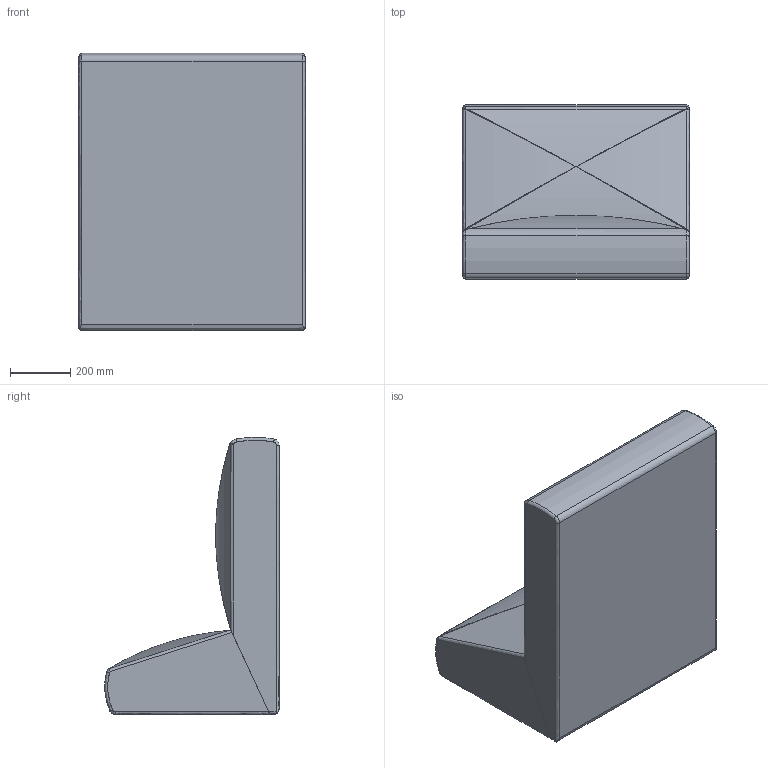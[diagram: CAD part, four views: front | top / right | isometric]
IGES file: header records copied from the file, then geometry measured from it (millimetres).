
Start section: SolidWorks IGES file using analytic representation for surfaces
Global section: file name: \\Logicserver\datos\01-VICCARBE\PRODUCTOS\53-SISTEMA\04-MODELADOS (PLANOS)\WEB\viccarbe-sistema-3D\Modulos\Modulo medio fino.IGS; native system: SolidWorks 2013; preprocessor: SolidWorks 2013; author: bdisenyo; date: 170120.111538; units: millimetre
Bounding box: 750 x 577.5 x 919.37 mm (x, y, z)
Surface area: 3040071.8 mm2 (no closed solid volume)
Topology: 0 solids, 0 shells, 54 faces, 625 edges, 617 vertices
Faces by surface type: bspline 31, revolution 23
